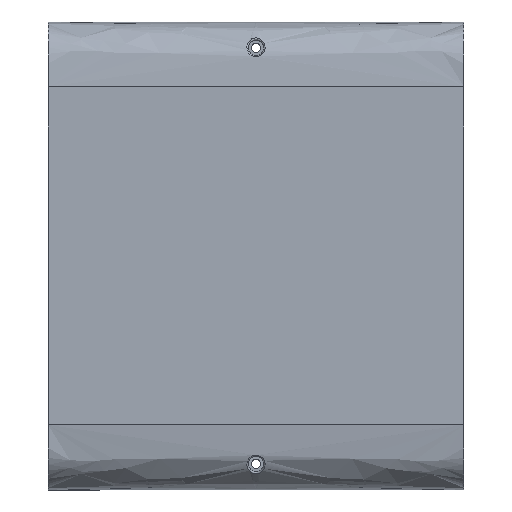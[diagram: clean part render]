
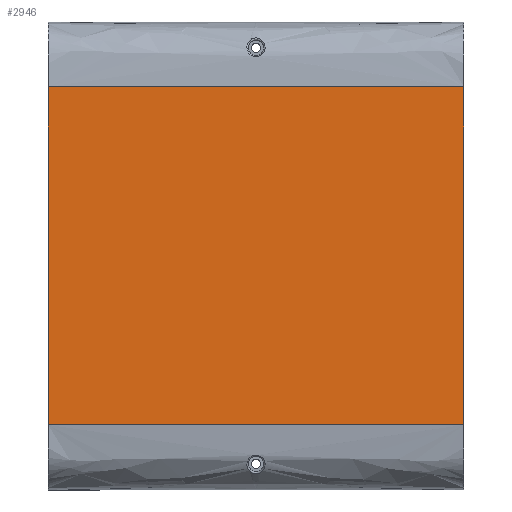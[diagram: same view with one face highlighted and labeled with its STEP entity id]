
A CAD part, top view. The second image highlights one B-rep face of the part: STEP entity #2946.
In plain terms, the highlighted planar face has unit normal (0, 0, 1).
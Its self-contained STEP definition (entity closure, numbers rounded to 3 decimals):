
#75=PLANE('',#3160);
#105=LINE('',#6207,#215);
#151=LINE('',#8151,#261);
#171=LINE('',#9099,#281);
#172=LINE('',#9100,#282);
#215=VECTOR('',#3362,10.);
#261=VECTOR('',#3534,10.);
#281=VECTOR('',#3632,10.);
#282=VECTOR('',#3633,10.);
#505=FACE_OUTER_BOUND('',#681,.T.);
#681=EDGE_LOOP('',(#2563,#2564,#2565,#2566));
#1154=VERTEX_POINT('',#6176);
#1156=VERTEX_POINT('',#6206);
#1260=VERTEX_POINT('',#8090);
#1263=VERTEX_POINT('',#8122);
#1505=EDGE_CURVE('',#1154,#1156,#105,.T.);
#1670=EDGE_CURVE('',#1260,#1263,#151,.T.);
#1759=EDGE_CURVE('',#1263,#1156,#171,.T.);
#1760=EDGE_CURVE('',#1154,#1260,#172,.T.);
#2563=ORIENTED_EDGE('',*,*,#1759,.T.);
#2564=ORIENTED_EDGE('',*,*,#1505,.F.);
#2565=ORIENTED_EDGE('',*,*,#1760,.T.);
#2566=ORIENTED_EDGE('',*,*,#1670,.T.);
#2946=ADVANCED_FACE('',(#505),#75,.T.);
#3160=AXIS2_PLACEMENT_3D('',#9098,#3630,#3631);
#3362=DIRECTION('',(1.,0.,0.));
#3534=DIRECTION('',(1.,0.,0.));
#3630=DIRECTION('center_axis',(0.,0.,
1.));
#3631=DIRECTION('ref_axis',(0.,-1.,0.));
#3632=DIRECTION('',(0.,1.,0.));
#3633=DIRECTION('',(0.,-1.,0.));
#6176=CARTESIAN_POINT('',(-160.,65.,189.9));
#6206=CARTESIAN_POINT('',(0.,65.,189.9));
#6207=CARTESIAN_POINT('',(-160.,65.,189.9));
#8090=CARTESIAN_POINT('',(-160.,-65.,189.9));
#8122=CARTESIAN_POINT('',(0.,-65.,189.9));
#8151=CARTESIAN_POINT('',(-160.,-65.,189.9));
#9098=CARTESIAN_POINT('Origin',(-160.,65.,189.9));
#9099=CARTESIAN_POINT('',(0.,-65.,189.9));
#9100=CARTESIAN_POINT('',(-160.,65.,189.9));
